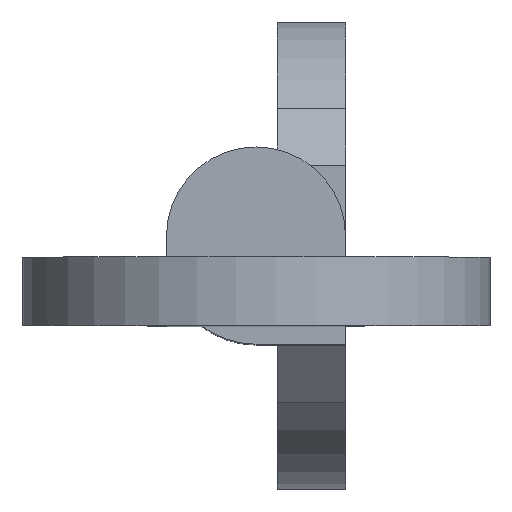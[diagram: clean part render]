
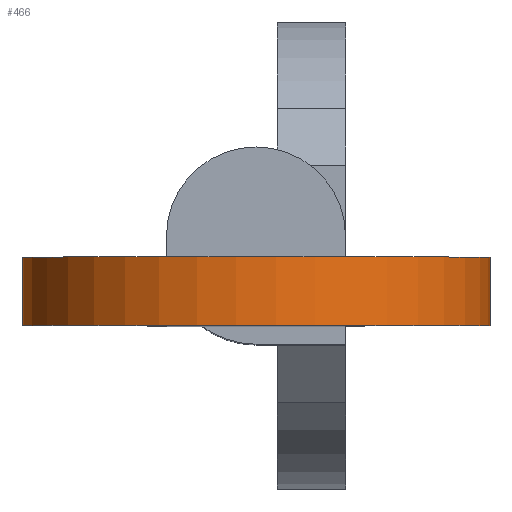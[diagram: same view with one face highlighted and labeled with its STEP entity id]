
A CAD part, top view. The second image highlights one B-rep face of the part: STEP entity #466.
In plain terms, the highlighted cylindrical face has radius 5.205 mm (diameter 10.41 mm), a partial arc.
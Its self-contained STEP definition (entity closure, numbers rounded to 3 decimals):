
#6 = EDGE_CURVE ( 'NONE', #282, #102, #64, .T. ) ;
#38 = LINE ( 'NONE', #786, #873 ) ;
#39 = VERTEX_POINT ( 'NONE', #98 ) ;
#64 = CIRCLE ( 'NONE', #339, 5.205 ) ;
#69 = DIRECTION ( 'NONE',  ( 0., -1., 0. ) ) ;
#70 = EDGE_CURVE ( 'NONE', #39, #102, #457, .T. ) ;
#98 = CARTESIAN_POINT ( 'NONE',  ( -3.264, -0.47, 122.945 ) ) ;
#102 = VERTEX_POINT ( 'NONE', #734 ) ;
#155 = ORIENTED_EDGE ( 'NONE', *, *, #6, .F. ) ;
#161 = EDGE_LOOP ( 'NONE', ( #155, #580, #496, #768 ) ) ;
#211 = AXIS2_PLACEMENT_3D ( 'NONE', #394, #69, #538 ) ;
#214 = CARTESIAN_POINT ( 'NONE',  ( 0., -1.99, 127. ) ) ;
#268 = FACE_OUTER_BOUND ( 'NONE', #161, .T. ) ;
#281 = CARTESIAN_POINT ( 'NONE',  ( 3.264, -0.47, 122.945 ) ) ;
#282 = VERTEX_POINT ( 'NONE', #868 ) ;
#314 = CIRCLE ( 'NONE', #814, 5.205 ) ;
#334 = EDGE_CURVE ( 'NONE', #832, #39, #314, .T. ) ;
#339 = AXIS2_PLACEMENT_3D ( 'NONE', #214, #696, #826 ) ;
#385 = DIRECTION ( 'NONE',  ( 0., -1., 0. ) ) ;
#394 = CARTESIAN_POINT ( 'NONE',  ( 0., -0.47, 127. ) ) ;
#457 = LINE ( 'NONE', #601, #710 ) ;
#466 = ADVANCED_FACE ( 'NONE', ( #268 ), #806, .T. ) ;
#496 = ORIENTED_EDGE ( 'NONE', *, *, #334, .T. ) ;
#538 = DIRECTION ( 'NONE',  ( 0., 0., -1. ) ) ;
#580 = ORIENTED_EDGE ( 'NONE', *, *, #810, .F. ) ;
#599 = DIRECTION ( 'NONE',  ( 0., 0., -1. ) ) ;
#601 = CARTESIAN_POINT ( 'NONE',  ( -3.264, -0.47, 122.945 ) ) ;
#655 = DIRECTION ( 'NONE',  ( 0., -1., 0. ) ) ;
#696 = DIRECTION ( 'NONE',  ( 0., -1., 0. ) ) ;
#710 = VECTOR ( 'NONE', #385, 1000. ) ;
#734 = CARTESIAN_POINT ( 'NONE',  ( -3.264, -1.99, 122.945 ) ) ;
#768 = ORIENTED_EDGE ( 'NONE', *, *, #70, .T. ) ;
#784 = CARTESIAN_POINT ( 'NONE',  ( 0., -0.47, 127. ) ) ;
#786 = CARTESIAN_POINT ( 'NONE',  ( 3.264, -0.47, 122.945 ) ) ;
#802 = DIRECTION ( 'NONE',  ( 0., -1., 0. ) ) ;
#806 = CYLINDRICAL_SURFACE ( 'NONE', #211, 5.205 ) ;
#810 = EDGE_CURVE ( 'NONE', #832, #282, #38, .T. ) ;
#814 = AXIS2_PLACEMENT_3D ( 'NONE', #784, #802, #599 ) ;
#826 = DIRECTION ( 'NONE',  ( 0., 0., -1. ) ) ;
#832 = VERTEX_POINT ( 'NONE', #281 ) ;
#868 = CARTESIAN_POINT ( 'NONE',  ( 3.264, -1.99, 122.945 ) ) ;
#873 = VECTOR ( 'NONE', #655, 1000. ) ;
